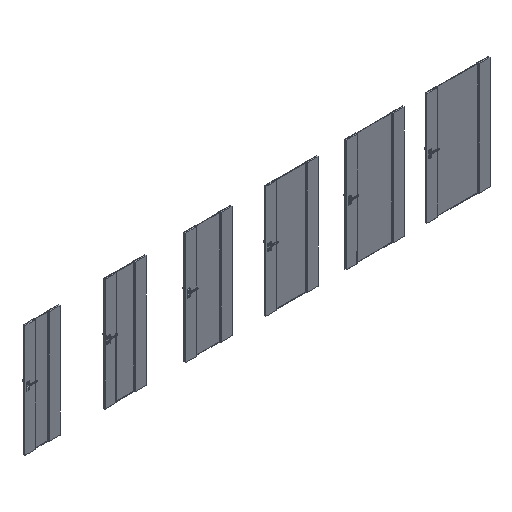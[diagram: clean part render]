
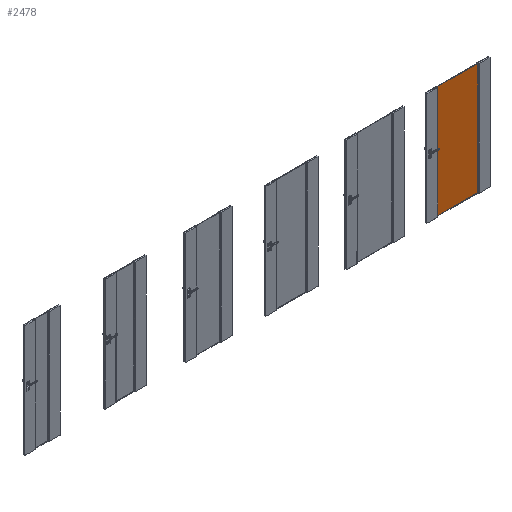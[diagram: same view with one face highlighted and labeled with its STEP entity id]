
A CAD part, isometric view. The second image highlights one B-rep face of the part: STEP entity #2478.
In plain terms, the highlighted planar face has unit normal (0, -1, 0).
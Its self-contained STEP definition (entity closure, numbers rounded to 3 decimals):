
#2478=ADVANCED_FACE('',(#4160),#3538,.F.);
#3538=PLANE('',#18875);
#4160=FACE_OUTER_BOUND('',#5284,.T.);
#5284=EDGE_LOOP('',(#7608,#7609,#7610,#7611));
#7608=ORIENTED_EDGE('',*,*,#13610,.T.);
#7609=ORIENTED_EDGE('',*,*,#13611,.T.);
#7610=ORIENTED_EDGE('',*,*,#13612,.F.);
#7611=ORIENTED_EDGE('',*,*,#13613,.F.);
#11812=VERTEX_POINT('',#27917);
#11813=VERTEX_POINT('',#27918);
#11814=VERTEX_POINT('',#27920);
#11815=VERTEX_POINT('',#27922);
#13610=EDGE_CURVE('',#11812,#11813,#16010,.T.);
#13611=EDGE_CURVE('',#11813,#11814,#16011,.T.);
#13612=EDGE_CURVE('',#11815,#11814,#16012,.T.);
#13613=EDGE_CURVE('',#11812,#11815,#16013,.T.);
#16010=LINE('',#27916,#17510);
#16011=LINE('',#27919,#17511);
#16012=LINE('',#27921,#17512);
#16013=LINE('',#27923,#17513);
#17510=VECTOR('',#21481,1.);
#17511=VECTOR('',#21482,1.);
#17512=VECTOR('',#21483,1.);
#17513=VECTOR('',#21484,1.);
#18875=AXIS2_PLACEMENT_3D('',#27924,#21485,#21486);
#21481=DIRECTION('',(0.,0.,-1.));
#21482=DIRECTION('',(1.,0.,0.));
#21483=DIRECTION('',(0.,0.,-1.));
#21484=DIRECTION('',(1.,0.,0.));
#21485=DIRECTION('',(0.,1.,0.));
#21486=DIRECTION('',(-1.,0.,0.));
#27916=CARTESIAN_POINT('',(7128.5,-23.65,2027.));
#27917=CARTESIAN_POINT('',(7128.5,-23.65,2026.));
#27918=CARTESIAN_POINT('',(7128.5,-23.65,1.));
#27919=CARTESIAN_POINT('',(7378.5,-23.65,1.));
#27920=CARTESIAN_POINT('',(7871.5,-23.65,1.));
#27921=CARTESIAN_POINT('',(7871.5,-23.65,2027.));
#27922=CARTESIAN_POINT('',(7871.5,-23.65,2026.));
#27923=CARTESIAN_POINT('',(7378.5,-23.65,2026.));
#27924=CARTESIAN_POINT('',(7378.5,-23.65,2027.));
